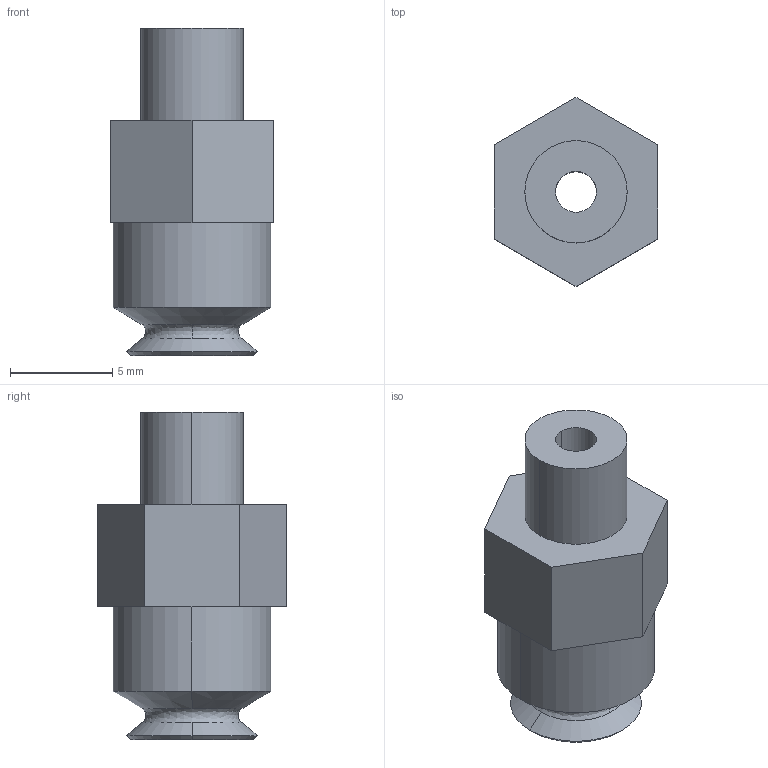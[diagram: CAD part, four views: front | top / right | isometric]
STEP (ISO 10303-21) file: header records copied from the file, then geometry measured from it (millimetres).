
FILE_DESCRIPTION (( 'STEP AP203' ), '1' );
FILE_NAME ('PFYN-6-NBR-55.STEP', '2024-02-29T06:27:21', ( '微软用户' ), ( '微软中国' ), 'SwSTEP 2.0', 'SolidWorks 2018', '' );
FILE_SCHEMA (( 'CONFIG_CONTROL_DESIGN' ));
Length unit declared in the file: millimetre
Products named in the file (3): 1; 1_2; PFYN-6-NBR-55
Assembly tree (2 placements, depth 2):
  PFYN-6-NBR-55
    1
    1_2
Bounding box: 8 x 9.24 x 16 mm (x, y, z)
Volume: 549.2 mm3; surface area: 823.3 mm2
Topology: 2 solids, 2 shells, 42 faces, 92 edges, 58 vertices
Faces by surface type: cylinder 16, plane 14, cone 10, bspline 2
Entity records: 1499 total; most frequent: DIRECTION 230, CARTESIAN_POINT 227, ORIENTED_EDGE 184, AXIS2_PLACEMENT_3D 93, EDGE_CURVE 92, VERTEX_POINT 58, EDGE_LOOP 50, CIRCLE 48
